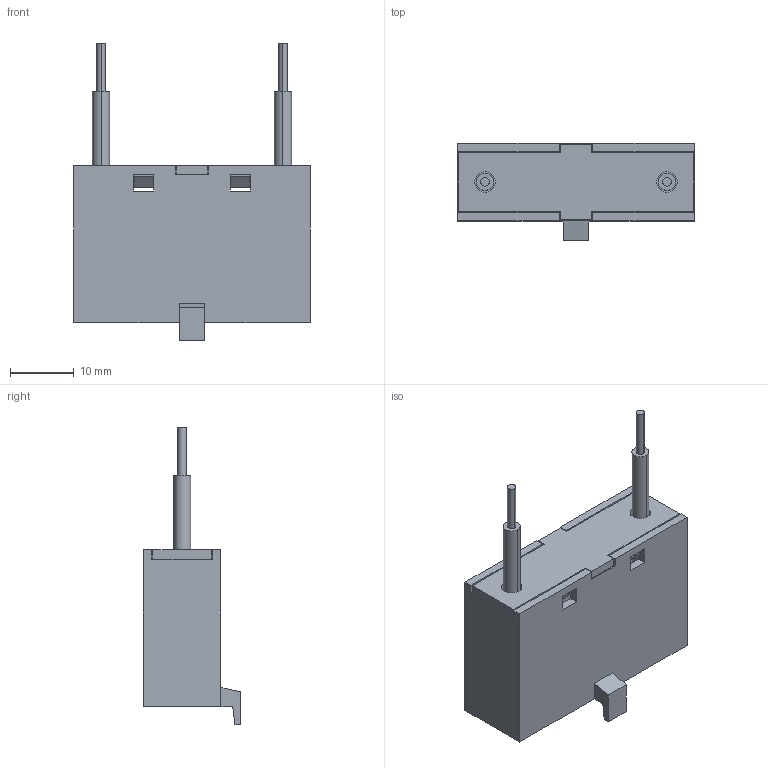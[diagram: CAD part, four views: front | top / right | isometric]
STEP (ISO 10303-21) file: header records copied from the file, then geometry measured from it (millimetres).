
FILE_DESCRIPTION((''),'2;1');
FILE_NAME('12C90087H01-RC-SURGE','2023-07-09T11:37:48',('design1'),(''),'CREO PARAMETRIC BY PTC INC, 2022284','CREO PARAMETRIC BY PTC INC, 2022284','');
FILE_SCHEMA(('CONFIG_CONTROL_DESIGN'));
Length unit declared in the file: inch
Products named in the file (1): 12C90087H01-RC-SURGE
Bounding box: 37.3 x 15.3 x 46.9 mm (x, y, z)
Volume: 4486.4 mm3; surface area: 7224.4 mm2
Topology: 1 solids, 1 shells, 121 faces, 348 edges, 228 vertices
Faces by surface type: plane 101, cylinder 20
Entity records: 3982 total; most frequent: CARTESIAN_POINT 697, ORIENTED_EDGE 696, DIRECTION 630, EDGE_CURVE 348, VECTOR 308, LINE 308, VERTEX_POINT 228, AXIS2_PLACEMENT_3D 161
